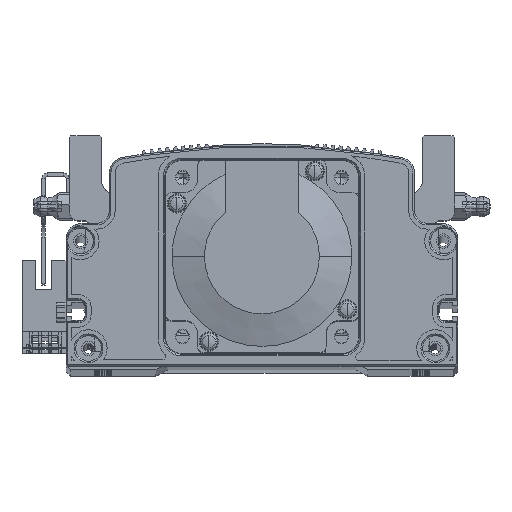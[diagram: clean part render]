
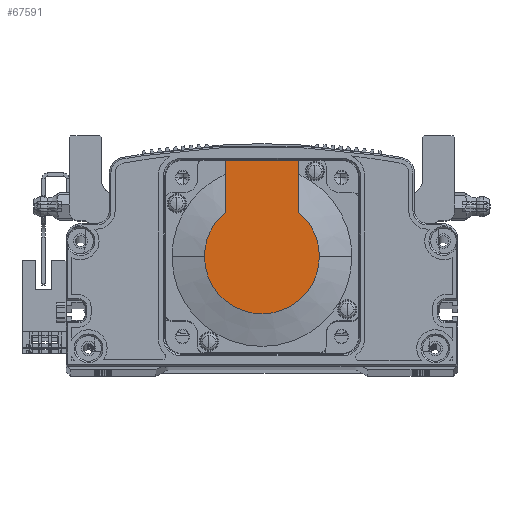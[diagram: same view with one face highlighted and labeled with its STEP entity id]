
A CAD part, top view. The second image highlights one B-rep face of the part: STEP entity #67591.
In plain terms, the highlighted planar face has unit normal (0, 0, 1) as drawn and (-1, 0, 0) by its records, which use the part's own axes.
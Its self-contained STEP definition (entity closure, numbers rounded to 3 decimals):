
#3254 = CARTESIAN_POINT ( 'NONE',  ( -118.5, 0., 11.45 ) ) ;
#9805 = CARTESIAN_POINT ( 'NONE',  ( -118.5, 0., 0. ) ) ;
#10692 = EDGE_LOOP ( 'NONE', ( #14418, #41873, #85186, #44500, #50967, #54540 ) ) ;
#10998 = CARTESIAN_POINT ( 'NONE',  ( -118.5, 30., -11.45 ) ) ;
#12282 = PLANE ( 'NONE',  #62515 ) ;
#13196 = VERTEX_POINT ( 'NONE', #58609 ) ;
#14194 = DIRECTION ( 'NONE',  ( -1., 0., 0. ) ) ;
#14418 = ORIENTED_EDGE ( 'NONE', *, *, #50776, .T. ) ;
#17728 = AXIS2_PLACEMENT_3D ( 'NONE', #58643, #14194, #96489 ) ;
#17834 = CARTESIAN_POINT ( 'NONE',  ( -118.5, 13.735, -11.45 ) ) ;
#19157 = VERTEX_POINT ( 'NONE', #38840 ) ;
#20422 = CARTESIAN_POINT ( 'NONE',  ( -118.5, -8.941, 0. ) ) ;
#22142 = AXIS2_PLACEMENT_3D ( 'NONE', #9805, #70266, #48005 ) ;
#23546 = DIRECTION ( 'NONE',  ( 0., 0., -1. ) ) ;
#25282 = CARTESIAN_POINT ( 'NONE',  ( -118.5, 13.735, 11.45 ) ) ;
#33034 = CIRCLE ( 'NONE', #33426, 17.881 ) ;
#33426 = AXIS2_PLACEMENT_3D ( 'NONE', #89907, #53316, #23546 ) ;
#34285 = VECTOR ( 'NONE', #73770, 1000. ) ;
#38840 = CARTESIAN_POINT ( 'NONE',  ( -118.5, 0., -17.881 ) ) ;
#39776 = VERTEX_POINT ( 'NONE', #10998 ) ;
#41873 = ORIENTED_EDGE ( 'NONE', *, *, #47657, .T. ) ;
#42360 = EDGE_CURVE ( 'NONE', #13196, #65379, #87701, .T. ) ;
#43246 = DIRECTION ( 'NONE',  ( -1., 0., 0. ) ) ;
#44500 = ORIENTED_EDGE ( 'NONE', *, *, #55996, .T. ) ;
#47657 = EDGE_CURVE ( 'NONE', #86600, #19157, #33034, .T. ) ;
#47757 = DIRECTION ( 'NONE',  ( 0., 0., 1. ) ) ;
#48005 = DIRECTION ( 'NONE',  ( 0., 0., -1. ) ) ;
#48484 = LINE ( 'NONE', #66227, #34285 ) ;
#50776 = EDGE_CURVE ( 'NONE', #39776, #86600, #48484, .T. ) ;
#50967 = ORIENTED_EDGE ( 'NONE', *, *, #42360, .F. ) ;
#52338 = CIRCLE ( 'NONE', #17728, 17.881 ) ;
#53316 = DIRECTION ( 'NONE',  ( -1., 0., 0. ) ) ;
#54359 = CARTESIAN_POINT ( 'NONE',  ( -118.5, 30., 25. ) ) ;
#54540 = ORIENTED_EDGE ( 'NONE', *, *, #76353, .F. ) ;
#55784 = DIRECTION ( 'NONE',  ( 0., -1., 0. ) ) ;
#55996 = EDGE_CURVE ( 'NONE', #81933, #65379, #52338, .T. ) ;
#56730 = EDGE_CURVE ( 'NONE', #19157, #81933, #76849, .T. ) ;
#58609 = CARTESIAN_POINT ( 'NONE',  ( -118.5, 30., 11.45 ) ) ;
#58643 = CARTESIAN_POINT ( 'NONE',  ( -118.5, 0., 0. ) ) ;
#62515 = AXIS2_PLACEMENT_3D ( 'NONE', #20422, #43246, #64885 ) ;
#64885 = DIRECTION ( 'NONE',  ( 0., 0., 1. ) ) ;
#65379 = VERTEX_POINT ( 'NONE', #25282 ) ;
#66227 = CARTESIAN_POINT ( 'NONE',  ( -118.5, -8.941, -11.45 ) ) ;
#67591 = ADVANCED_FACE ( 'NONE', ( #73811 ), #12282, .T. ) ;
#68600 = LINE ( 'NONE', #54359, #78007 ) ;
#70266 = DIRECTION ( 'NONE',  ( -1., 0., 0. ) ) ;
#73770 = DIRECTION ( 'NONE',  ( 0., -1., 0. ) ) ;
#73811 = FACE_OUTER_BOUND ( 'NONE', #10692, .T. ) ;
#76353 = EDGE_CURVE ( 'NONE', #39776, #13196, #68600, .T. ) ;
#76849 = CIRCLE ( 'NONE', #22142, 17.881 ) ;
#78007 = VECTOR ( 'NONE', #47757, 1000. ) ;
#81933 = VERTEX_POINT ( 'NONE', #96786 ) ;
#85186 = ORIENTED_EDGE ( 'NONE', *, *, #56730, .T. ) ;
#86600 = VERTEX_POINT ( 'NONE', #17834 ) ;
#87701 = LINE ( 'NONE', #3254, #93492 ) ;
#89907 = CARTESIAN_POINT ( 'NONE',  ( -118.5, 0., 0. ) ) ;
#93492 = VECTOR ( 'NONE', #55784, 1000. ) ;
#96489 = DIRECTION ( 'NONE',  ( 0., 0., -1. ) ) ;
#96786 = CARTESIAN_POINT ( 'NONE',  ( -118.5, 0., 17.881 ) ) ;
